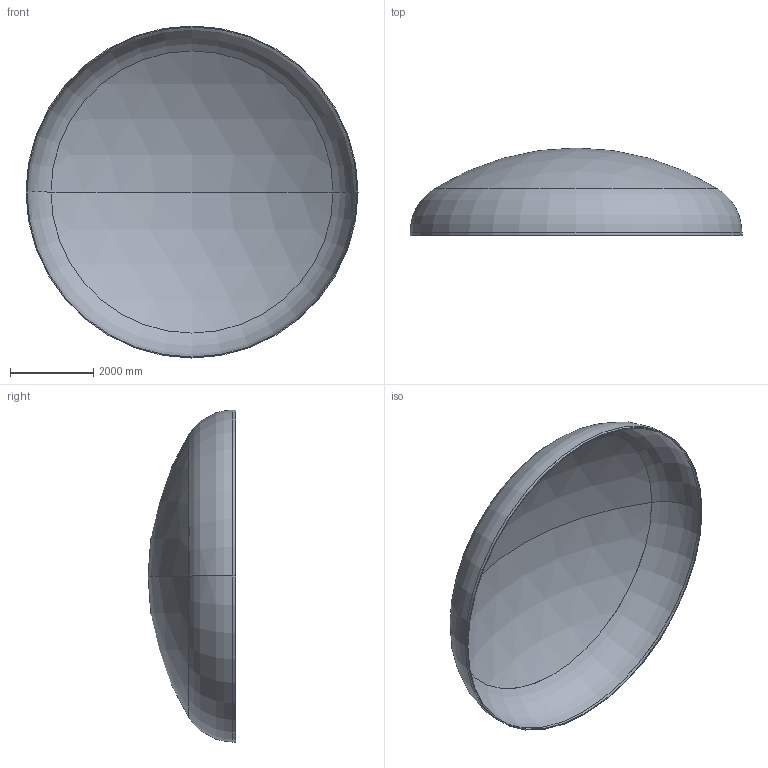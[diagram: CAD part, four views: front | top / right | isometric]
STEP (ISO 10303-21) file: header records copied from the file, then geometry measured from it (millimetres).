
FILE_DESCRIPTION (( 'STEP AP203' ), '1' );
FILE_NAME ('DIN 28013 Korbbogenform_-_Boden DIN 28013 - 8000 x 70 - I - s=23.step', '2016-07-04T10:59:33', ( '' ), ( '' ), 'SwSTEP 2.0', 'SolidWorks 2013', '' );
FILE_SCHEMA (( 'CONFIG_CONTROL_DESIGN' ));
Length unit declared in the file: millimetre
Products named in the file (1): DIN 28013 Korbbogenform_-_Boden DIN 28013 - 8000 x 70 - I - s=23
Bounding box: 8000 x 2113.17 x 8000 mm (x, y, z)
Volume: 1635075993.8 mm3; surface area: 142757962.1 mm2
Topology: 1 solids, 1 shells, 13 faces, 24 edges, 14 vertices
Faces by surface type: torus 4, cylinder 4, sphere 4, plane 1
Entity records: 407 total; most frequent: DIRECTION 72, CARTESIAN_POINT 52, ORIENTED_EDGE 48, AXIS2_PLACEMENT_3D 34, EDGE_CURVE 24, CIRCLE 20, EDGE_LOOP 14, VERTEX_POINT 14
